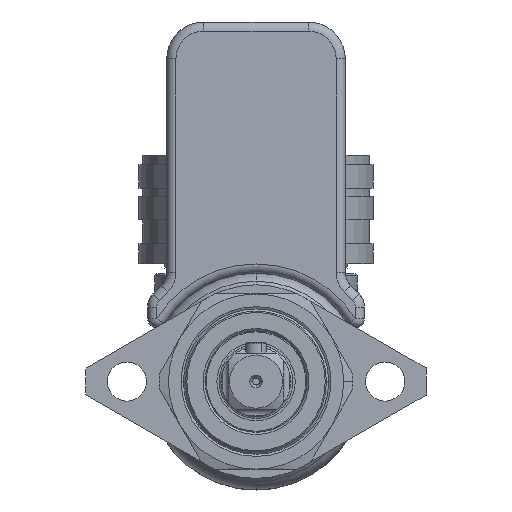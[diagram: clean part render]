
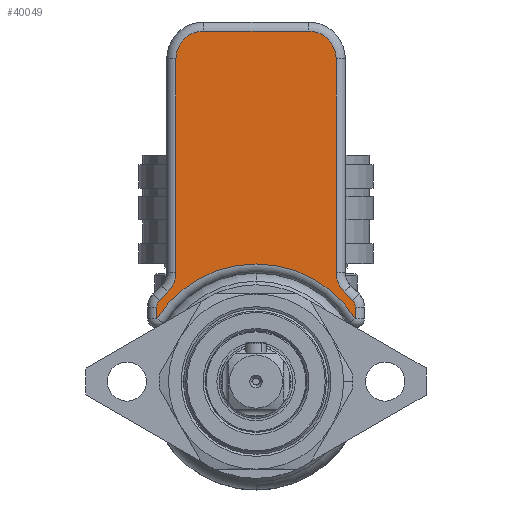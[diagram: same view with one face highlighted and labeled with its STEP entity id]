
A CAD part, left-side view. The second image highlights one B-rep face of the part: STEP entity #40049.
In plain terms, the highlighted planar face has unit normal (-1, 0, 0).
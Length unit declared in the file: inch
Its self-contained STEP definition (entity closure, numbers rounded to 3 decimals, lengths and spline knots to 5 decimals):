
#206 = CARTESIAN_POINT ( 'NONE',  ( -3.10452, 0.543, 2.22484 ) ) ;
#209 = CARTESIAN_POINT ( 'NONE',  ( -3.10452, -0.673, 0.46478 ) ) ;
#3089 = VERTEX_POINT ( 'NONE', #206 ) ;
#3092 = VERTEX_POINT ( 'NONE', #209 ) ;
#5306 = VERTEX_POINT ( 'NONE', #23507 ) ;
#5307 = VERTEX_POINT ( 'NONE', #23508 ) ;
#5312 = VERTEX_POINT ( 'NONE', #23513 ) ;
#5313 = VERTEX_POINT ( 'NONE', #23514 ) ;
#5335 = VERTEX_POINT ( 'NONE', #23536 ) ;
#5361 = VERTEX_POINT ( 'NONE', #23562 ) ;
#5572 = VERTEX_POINT ( 'NONE', #23777 ) ;
#5578 = VERTEX_POINT ( 'NONE', #23783 ) ;
#5583 = VERTEX_POINT ( 'NONE', #23788 ) ;
#5610 = VERTEX_POINT ( 'NONE', #23815 ) ;
#5640 = VERTEX_POINT ( 'NONE', #23845 ) ;
#5642 = VERTEX_POINT ( 'NONE', #23847 ) ;
#7147 = ORIENTED_EDGE ( 'NONE', *, *, #10750, .T. ) ;
#7148 = ORIENTED_EDGE ( 'NONE', *, *, #10751, .T. ) ;
#7149 = ORIENTED_EDGE ( 'NONE', *, *, #10748, .T. ) ;
#7150 = ORIENTED_EDGE ( 'NONE', *, *, #10746, .T. ) ;
#7151 = ORIENTED_EDGE ( 'NONE', *, *, #10744, .T. ) ;
#7152 = ORIENTED_EDGE ( 'NONE', *, *, #9571, .T. ) ;
#7153 = ORIENTED_EDGE ( 'NONE', *, *, #10752, .T. ) ;
#7154 = ORIENTED_EDGE ( 'NONE', *, *, #10753, .T. ) ;
#7155 = ORIENTED_EDGE ( 'NONE', *, *, #10754, .T. ) ;
#7156 = ORIENTED_EDGE ( 'NONE', *, *, #10755, .T. ) ;
#7157 = ORIENTED_EDGE ( 'NONE', *, *, #10756, .T. ) ;
#7158 = ORIENTED_EDGE ( 'NONE', *, *, #10757, .T. ) ;
#7159 = ORIENTED_EDGE ( 'NONE', *, *, #10758, .T. ) ;
#7160 = ORIENTED_EDGE ( 'NONE', *, *, #10759, .T. ) ;
#9571 = EDGE_CURVE ( 'NONE', #5610, #3092, #28117, .T. ) ;
#9726 = EDGE_LOOP ( 'NONE', ( #7147, #7148, #7149, #7150, #7151, #7152, #7153, #7154, #7155, #7156, #7157, #7158, #7159, #7160 ) ) ;
#10744 = EDGE_CURVE ( 'NONE', #5313, #5610, #28119, .T. ) ;
#10746 = EDGE_CURVE ( 'NONE', #5572, #5313, #28120, .T. ) ;
#10748 = EDGE_CURVE ( 'NONE', #5335, #5572, #28125, .T. ) ;
#10750 = EDGE_CURVE ( 'NONE', #3089, #5361, #28124, .T. ) ;
#10751 = EDGE_CURVE ( 'NONE', #5361, #5335, #28131, .T. ) ;
#10752 = EDGE_CURVE ( 'NONE', #3092, #5312, #28133, .T. ) ;
#10753 = EDGE_CURVE ( 'NONE', #5312, #5578, #28134, .T. ) ;
#10754 = EDGE_CURVE ( 'NONE', #5578, #5640, #28136, .T. ) ;
#10755 = EDGE_CURVE ( 'NONE', #5640, #5306, #28137, .T. ) ;
#10756 = EDGE_CURVE ( 'NONE', #5306, #5307, #28139, .T. ) ;
#10757 = EDGE_CURVE ( 'NONE', #5307, #5642, #28140, .T. ) ;
#10758 = EDGE_CURVE ( 'NONE', #5642, #5583, #28142, .T. ) ;
#10759 = EDGE_CURVE ( 'NONE', #5583, #3089, #28143, .T. ) ;
#20276 = AXIS2_PLACEMENT_3D ( 'NONE', #27563, #27564, #27565 ) ;
#20281 = AXIS2_PLACEMENT_3D ( 'NONE', #29067, #29068, #29069 ) ;
#20284 = AXIS2_PLACEMENT_3D ( 'NONE', #29082, #29083, #29084 ) ;
#20285 = AXIS2_PLACEMENT_3D ( 'NONE', #29087, #29088, #29089 ) ;
#20286 = AXIS2_PLACEMENT_3D ( 'NONE', #29092, #29093, #29094 ) ;
#20287 = AXIS2_PLACEMENT_3D ( 'NONE', #29096, #29097, #29098 ) ;
#20288 = AXIS2_PLACEMENT_3D ( 'NONE', #29100, #29101, #29102 ) ;
#20445 = AXIS2_PLACEMENT_3D ( 'NONE', #32756, #32764, #32765 ) ;
#23507 = CARTESIAN_POINT ( 'NONE',  ( -3.10452, -0.543, 0.77661 ) ) ;
#23508 = CARTESIAN_POINT ( 'NONE',  ( -3.10452, -0.543, 2.22484 ) ) ;
#23513 = CARTESIAN_POINT ( 'NONE',  ( -3.10452, -0.673, 0.54306 ) ) ;
#23514 = CARTESIAN_POINT ( 'NONE',  ( -3.10452, 0.673, 0.54306 ) ) ;
#23536 = CARTESIAN_POINT ( 'NONE',  ( -3.10452, 0.59777, 0.64438 ) ) ;
#23562 = CARTESIAN_POINT ( 'NONE',  ( -3.10452, 0.543, 0.77661 ) ) ;
#23777 = CARTESIAN_POINT ( 'NONE',  ( -3.10452, 0.65455, 0.58761 ) ) ;
#23783 = CARTESIAN_POINT ( 'NONE',  ( -3.10452, -0.65455, 0.58761 ) ) ;
#23788 = CARTESIAN_POINT ( 'NONE',  ( -3.10452, 0.355, 2.41284 ) ) ;
#23815 = CARTESIAN_POINT ( 'NONE',  ( -3.10452, 0.673, 0.46478 ) ) ;
#23845 = CARTESIAN_POINT ( 'NONE',  ( -3.10452, -0.59777, 0.64438 ) ) ;
#23847 = CARTESIAN_POINT ( 'NONE',  ( -3.10452, -0.355, 2.41284 ) ) ;
#27563 = CARTESIAN_POINT ( 'NONE',  ( -3.10452, 0., 0.03784 ) ) ;
#27564 = DIRECTION ( 'NONE',  ( 1., 0., 0. ) ) ;
#27565 = DIRECTION ( 'NONE',  ( 0., 1., 0. ) ) ;
#28117 = CIRCLE ( 'NONE', #20276, 0.797 ) ;
#28119 = LINE ( 'NONE', #29058, #28127 ) ;
#28120 = CIRCLE ( 'NONE', #20281, 0.063 ) ;
#28124 = LINE ( 'NONE', #29076, #28132 ) ;
#28125 = LINE ( 'NONE', #29070, #28129 ) ;
#28127 = VECTOR ( 'NONE', #29054, 39.37008 ) ;
#28129 = VECTOR ( 'NONE', #29066, 39.37008 ) ;
#28131 = CIRCLE ( 'NONE', #20284, 0.187 ) ;
#28132 = VECTOR ( 'NONE', #29062, 39.37008 ) ;
#28133 = LINE ( 'NONE', #29075, #28135 ) ;
#28134 = CIRCLE ( 'NONE', #20285, 0.063 ) ;
#28135 = VECTOR ( 'NONE', #29074, 39.37008 ) ;
#28136 = LINE ( 'NONE', #29080, #28138 ) ;
#28137 = CIRCLE ( 'NONE', #20286, 0.187 ) ;
#28138 = VECTOR ( 'NONE', #29081, 39.37008 ) ;
#28139 = LINE ( 'NONE', #29085, #28141 ) ;
#28140 = CIRCLE ( 'NONE', #20287, 0.188 ) ;
#28141 = VECTOR ( 'NONE', #29086, 39.37008 ) ;
#28142 = LINE ( 'NONE', #29090, #28144 ) ;
#28143 = CIRCLE ( 'NONE', #20288, 0.188 ) ;
#28144 = VECTOR ( 'NONE', #29091, 39.37008 ) ;
#29054 = DIRECTION ( 'NONE',  ( 0., 0., -1. ) ) ;
#29058 = CARTESIAN_POINT ( 'NONE',  ( -3.10452, 0.673, 0.54306 ) ) ;
#29062 = DIRECTION ( 'NONE',  ( 0., 0., -1. ) ) ;
#29066 = DIRECTION ( 'NONE',  ( 0., 0.707, -0.707 ) ) ;
#29067 = CARTESIAN_POINT ( 'NONE',  ( -3.10452, 0.61, 0.54306 ) ) ;
#29068 = DIRECTION ( 'NONE',  ( -1., 0., 0. ) ) ;
#29069 = DIRECTION ( 'NONE',  ( 0., 1., 0. ) ) ;
#29070 = CARTESIAN_POINT ( 'NONE',  ( -3.10452, 0.65455, 0.58761 ) ) ;
#29074 = DIRECTION ( 'NONE',  ( 0., 0., 1. ) ) ;
#29075 = CARTESIAN_POINT ( 'NONE',  ( -3.10452, -0.673, 0.54306 ) ) ;
#29076 = CARTESIAN_POINT ( 'NONE',  ( -3.10452, 0.543, 0.54306 ) ) ;
#29080 = CARTESIAN_POINT ( 'NONE',  ( -3.10452, -0.04455, 1.19761 ) ) ;
#29081 = DIRECTION ( 'NONE',  ( 0., 0.707, 0.707 ) ) ;
#29082 = CARTESIAN_POINT ( 'NONE',  ( -3.10452, 0.73, 0.77661 ) ) ;
#29083 = DIRECTION ( 'NONE',  ( 1., 0., 0. ) ) ;
#29084 = DIRECTION ( 'NONE',  ( 0., 1., 0. ) ) ;
#29085 = CARTESIAN_POINT ( 'NONE',  ( -3.10452, -0.543, 0.54306 ) ) ;
#29086 = DIRECTION ( 'NONE',  ( 0., 0., 1. ) ) ;
#29087 = CARTESIAN_POINT ( 'NONE',  ( -3.10452, -0.61, 0.54306 ) ) ;
#29088 = DIRECTION ( 'NONE',  ( -1., 0., 0. ) ) ;
#29089 = DIRECTION ( 'NONE',  ( 0., 1., 0. ) ) ;
#29090 = CARTESIAN_POINT ( 'NONE',  ( -3.10452, 0.61, 2.41284 ) ) ;
#29091 = DIRECTION ( 'NONE',  ( 0., 1., 0. ) ) ;
#29092 = CARTESIAN_POINT ( 'NONE',  ( -3.10452, -0.73, 0.77661 ) ) ;
#29093 = DIRECTION ( 'NONE',  ( 1., 0., 0. ) ) ;
#29094 = DIRECTION ( 'NONE',  ( 0., 1., 0. ) ) ;
#29096 = CARTESIAN_POINT ( 'NONE',  ( -3.10452, -0.355, 2.22484 ) ) ;
#29097 = DIRECTION ( 'NONE',  ( -1., 0., 0. ) ) ;
#29098 = DIRECTION ( 'NONE',  ( 0., 1., 0. ) ) ;
#29100 = CARTESIAN_POINT ( 'NONE',  ( -3.10452, 0.355, 2.22484 ) ) ;
#29101 = DIRECTION ( 'NONE',  ( -1., 0., 0. ) ) ;
#29102 = DIRECTION ( 'NONE',  ( 0., 1., 0. ) ) ;
#31589 = FACE_OUTER_BOUND ( 'NONE', #9726, .T. ) ;
#32756 = CARTESIAN_POINT ( 'NONE',  ( -3.10452, 0.61, 0.54306 ) ) ;
#32761 = PLANE ( 'NONE',  #20445 ) ;
#32764 = DIRECTION ( 'NONE',  ( -1., 0., 0. ) ) ;
#32765 = DIRECTION ( 'NONE',  ( 0., 1., 0. ) ) ;
#40049 = ADVANCED_FACE ( 'NONE', ( #31589 ), #32761, .T. ) ;
